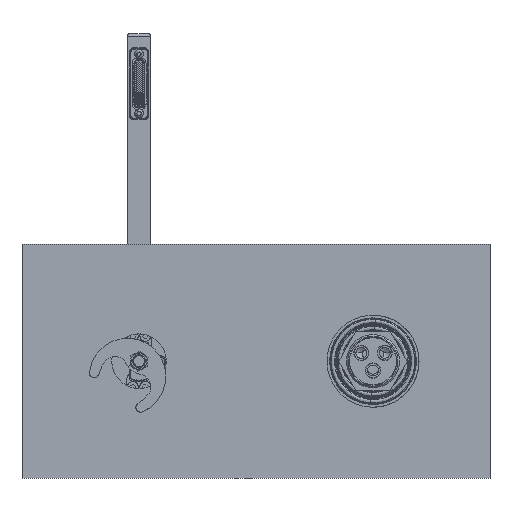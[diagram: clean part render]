
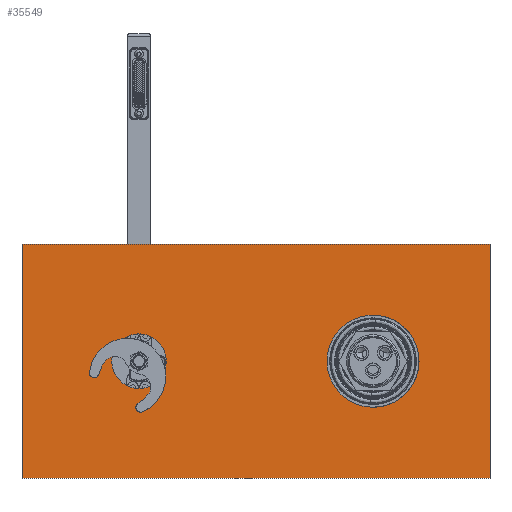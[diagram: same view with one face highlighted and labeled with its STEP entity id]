
A CAD part, front view. The second image highlights one B-rep face of the part: STEP entity #35549.
In plain terms, the highlighted planar face has unit normal (0, -1, 0).
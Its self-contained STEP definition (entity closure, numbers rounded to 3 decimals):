
#948 = CIRCLE ( 'NONE', #34032, 17.5 ) ;
#1957 = AXIS2_PLACEMENT_3D ( 'NONE', #29944, #30337, #47437 ) ;
#2888 = EDGE_LOOP ( 'NONE', ( #61733, #30837 ) ) ;
#6140 = CARTESIAN_POINT ( 'NONE',  ( -188.47, -13.907, 150. ) ) ;
#6211 = DIRECTION ( 'NONE',  ( -1., 0., 0. ) ) ;
#6215 = EDGE_CURVE ( 'NONE', #70790, #26363, #28678, .T. ) ;
#7116 = LINE ( 'NONE', #30970, #55691 ) ;
#7564 = CARTESIAN_POINT ( 'NONE',  ( -130.97, -13.907, 75. ) ) ;
#8241 = ORIENTED_EDGE ( 'NONE', *, *, #54546, .F. ) ;
#10695 = EDGE_CURVE ( 'NONE', #41404, #55990, #27968, .T. ) ;
#12796 = FACE_BOUND ( 'NONE', #2888, .T. ) ;
#12952 = DIRECTION ( 'NONE',  ( 0., 1., 0. ) ) ;
#14054 = DIRECTION ( 'NONE',  ( 0., 0., -1. ) ) ;
#14582 = EDGE_CURVE ( 'NONE', #19032, #27033, #948, .T. ) ;
#18036 = CIRCLE ( 'NONE', #37058, 17.5 ) ;
#19032 = VERTEX_POINT ( 'NONE', #70792 ) ;
#21598 = CARTESIAN_POINT ( 'NONE',  ( -95.97, -13.907, 75. ) ) ;
#23572 = VECTOR ( 'NONE', #25345, 1000. ) ;
#25313 = ORIENTED_EDGE ( 'NONE', *, *, #10695, .F. ) ;
#25334 = DIRECTION ( 'NONE',  ( -1., 0., 0. ) ) ;
#25345 = DIRECTION ( 'NONE',  ( 1., 0., 0. ) ) ;
#26310 = ORIENTED_EDGE ( 'NONE', *, *, #42359, .T. ) ;
#26363 = VERTEX_POINT ( 'NONE', #7564 ) ;
#27033 = VERTEX_POINT ( 'NONE', #71431 ) ;
#27968 = LINE ( 'NONE', #52203, #57838 ) ;
#28195 = EDGE_CURVE ( 'NONE', #26363, #70790, #65556, .T. ) ;
#28678 = CIRCLE ( 'NONE', #1957, 17.5 ) ;
#28886 = VERTEX_POINT ( 'NONE', #46227 ) ;
#29944 = CARTESIAN_POINT ( 'NONE',  ( -113.47, -13.907, 75. ) ) ;
#30337 = DIRECTION ( 'NONE',  ( 0., 1., 0. ) ) ;
#30837 = ORIENTED_EDGE ( 'NONE', *, *, #6215, .T. ) ;
#30970 = CARTESIAN_POINT ( 'NONE',  ( -188.47, -13.907, 0. ) ) ;
#31085 = CARTESIAN_POINT ( 'NONE',  ( -188.47, -13.907, 150. ) ) ;
#31268 = AXIS2_PLACEMENT_3D ( 'NONE', #67031, #12952, #6211 ) ;
#31862 = CARTESIAN_POINT ( 'NONE',  ( 36.53, -13.907, 75. ) ) ;
#34032 = AXIS2_PLACEMENT_3D ( 'NONE', #56700, #37658, #25334 ) ;
#35404 = VECTOR ( 'NONE', #54635, 1000. ) ;
#35549 = ADVANCED_FACE ( 'NONE', ( #56492, #12796, #37066 ), #61270, .F. ) ;
#36378 = LINE ( 'NONE', #6140, #35404 ) ;
#36592 = CARTESIAN_POINT ( 'NONE',  ( 111.53, -13.907, 0. ) ) ;
#37058 = AXIS2_PLACEMENT_3D ( 'NONE', #31862, #68824, #48969 ) ;
#37066 = FACE_OUTER_BOUND ( 'NONE', #68397, .T. ) ;
#37658 = DIRECTION ( 'NONE',  ( 0., 1., 0. ) ) ;
#38702 = ORIENTED_EDGE ( 'NONE', *, *, #65483, .T. ) ;
#39693 = CARTESIAN_POINT ( 'NONE',  ( 111.53, -13.907, 150. ) ) ;
#41404 = VERTEX_POINT ( 'NONE', #39693 ) ;
#42359 = EDGE_CURVE ( 'NONE', #28886, #55990, #7116, .T. ) ;
#45152 = EDGE_LOOP ( 'NONE', ( #38702, #66361 ) ) ;
#46227 = CARTESIAN_POINT ( 'NONE',  ( -188.47, -13.907, 0. ) ) ;
#47437 = DIRECTION ( 'NONE',  ( -1., 0., 0. ) ) ;
#48029 = LINE ( 'NONE', #74212, #23572 ) ;
#48969 = DIRECTION ( 'NONE',  ( -1., 0., 0. ) ) ;
#52203 = CARTESIAN_POINT ( 'NONE',  ( 111.53, -13.907, 150. ) ) ;
#54546 = EDGE_CURVE ( 'NONE', #77038, #41404, #48029, .T. ) ;
#54635 = DIRECTION ( 'NONE',  ( 0., 0., -1. ) ) ;
#55331 = DIRECTION ( 'NONE',  ( 0., 0., 1. ) ) ;
#55691 = VECTOR ( 'NONE', #73119, 1000. ) ;
#55990 = VERTEX_POINT ( 'NONE', #36592 ) ;
#56492 = FACE_BOUND ( 'NONE', #45152, .T. ) ;
#56700 = CARTESIAN_POINT ( 'NONE',  ( 36.53, -13.907, 75. ) ) ;
#57838 = VECTOR ( 'NONE', #14054, 1000. ) ;
#61270 = PLANE ( 'NONE',  #62386 ) ;
#61733 = ORIENTED_EDGE ( 'NONE', *, *, #28195, .T. ) ;
#62072 = DIRECTION ( 'NONE',  ( 0., 1., 0. ) ) ;
#62386 = AXIS2_PLACEMENT_3D ( 'NONE', #31085, #62072, #55331 ) ;
#65483 = EDGE_CURVE ( 'NONE', #27033, #19032, #18036, .T. ) ;
#65556 = CIRCLE ( 'NONE', #31268, 17.5 ) ;
#66361 = ORIENTED_EDGE ( 'NONE', *, *, #14582, .T. ) ;
#67031 = CARTESIAN_POINT ( 'NONE',  ( -113.47, -13.907, 75. ) ) ;
#67953 = CARTESIAN_POINT ( 'NONE',  ( -188.47, -13.907, 150. ) ) ;
#68397 = EDGE_LOOP ( 'NONE', ( #26310, #25313, #8241, #68959 ) ) ;
#68824 = DIRECTION ( 'NONE',  ( 0., 1., 0. ) ) ;
#68959 = ORIENTED_EDGE ( 'NONE', *, *, #74579, .T. ) ;
#70790 = VERTEX_POINT ( 'NONE', #21598 ) ;
#70792 = CARTESIAN_POINT ( 'NONE',  ( 54.03, -13.907, 75. ) ) ;
#71431 = CARTESIAN_POINT ( 'NONE',  ( 19.03, -13.907, 75. ) ) ;
#73119 = DIRECTION ( 'NONE',  ( 1., 0., 0. ) ) ;
#74212 = CARTESIAN_POINT ( 'NONE',  ( -188.47, -13.907, 150. ) ) ;
#74579 = EDGE_CURVE ( 'NONE', #77038, #28886, #36378, .T. ) ;
#77038 = VERTEX_POINT ( 'NONE', #67953 ) ;
